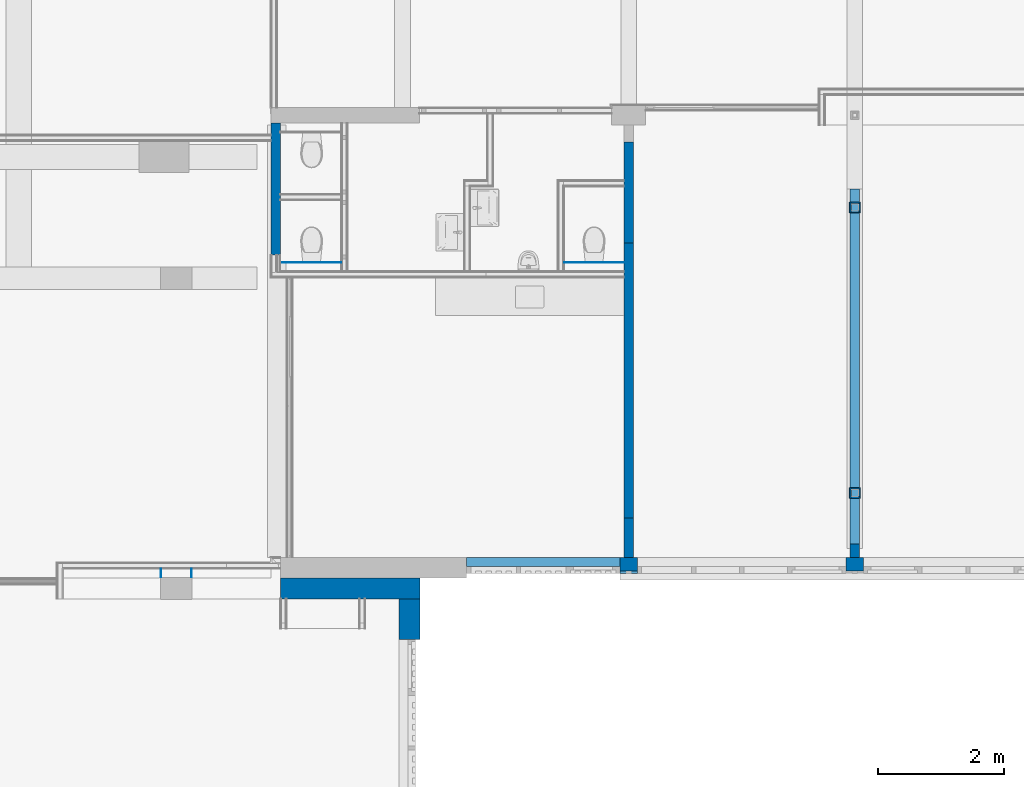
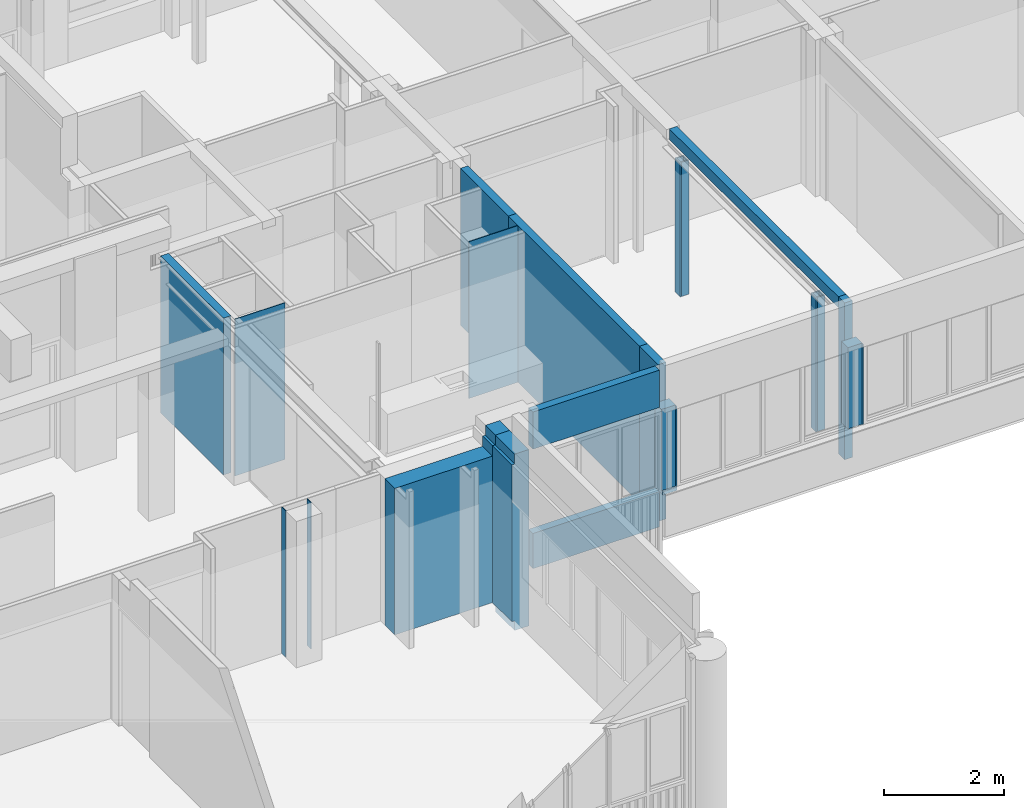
# One storey, part 57 of 117: 24 walls.
"""IFC2X3 building model written with IfcOpenShell, lengths in millimetres."""

from ifc_helpers import new_model, entity, si_unit, converted_unit, derived_unit, money_unit, direction, frame, origin_with_axes, place, context, subcontext, project, spatial, faceted_brep, material, type_object, element, save


model = new_model("IFC2X3")

# Units and contexts
model_context = context("Model", 3, precision=0.01, world=origin_with_axes(), true_north=direction((0.0, 1.0)))
body_context = subcontext(model_context, "Body", "Model", "MODEL_VIEW")
ifc_project = project(units=[si_unit("LENGTHUNIT", "METRE", prefix="MILLI"), si_unit("AREAUNIT", "SQUARE_METRE"), si_unit("VOLUMEUNIT", "CUBIC_METRE"), converted_unit("PLANEANGLEUNIT", "DEGREE", entity("IfcPlaneAngleMeasure", 0.0174532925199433), si_unit("PLANEANGLEUNIT", "RADIAN"), dimensions=[0, 0, 0, 0, 0, 0, 0]), money_unit("EUR"), converted_unit("TIMEUNIT", "Year", entity("IfcTimeMeasure", 31557600.0), si_unit("TIMEUNIT", "SECOND"), dimensions=[0, 0, 1, 0, 0, 0, 0]), si_unit("MASSUNIT", "GRAM", prefix="KILO"), si_unit("THERMODYNAMICTEMPERATUREUNIT", "DEGREE_CELSIUS"), si_unit("LUMINOUSINTENSITYUNIT", "LUMEN"), si_unit("ENERGYUNIT", "JOULE", prefix="MEGA"), derived_unit("THERMALCONDUCTANCEUNIT", [(si_unit("POWERUNIT", "WATT"), 1), (si_unit("LENGTHUNIT", "METRE"), -1), (si_unit("THERMODYNAMICTEMPERATUREUNIT", "KELVIN"), -1)]), derived_unit("SPECIFICHEATCAPACITYUNIT", [(si_unit("ENERGYUNIT", "JOULE"), 1), (si_unit("MASSUNIT", "GRAM", prefix="KILO"), -1), (si_unit("THERMODYNAMICTEMPERATUREUNIT", "KELVIN"), -1)]), derived_unit("MASSDENSITYUNIT", [(si_unit("MASSUNIT", "GRAM", prefix="KILO"), 1), (si_unit("VOLUMEUNIT", "CUBIC_METRE"), -1)])], contexts=[model_context])

# Site, building, storey
site_placement = place(None, origin_with_axes())
site = spatial("IfcSite", under=ifc_project, at=site_placement, Name="Site", CompositionType="ELEMENT")
building_placement = place(site_placement, origin_with_axes())
building = spatial("IfcBuilding", under=site, at=building_placement, Name="Naam gebouw", CompositionType="ELEMENT")
storey_placement = place(building_placement, frame((0.0, 0.0, 4150.0), z_axis=(0.0, 0.0, 1.0), x_axis=(1.0, 0.0, 0.0)))
storey = spatial("IfcBuildingStorey", under=building, at=storey_placement, Name="1e verdieping N", CompositionType="ELEMENT", Elevation=4150.0)

# Walls
ifc_material_1 = material(Name="ALG - CONSTRUCTIEF")
wall_type_1 = type_object("IfcWallType", Name="ALG - CONSTRUCTIEF 150", PredefinedType="NOTDEFINED")
wall_1_placement = place(storey_placement, frame((35999.99999999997, 10990.91242510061, -99.99999999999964), z_axis=(0.0, 0.0, 1.0), x_axis=(0.0, 1.0, 0.0)))
element("IfcWall", 1, at=wall_1_placement, inside=storey, type_object=wall_type_1, material=ifc_material_1, Name="_Wand-x", context=body_context, shape_type="Brep", body=[
    faceted_brep([(625.2598021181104, -75.00000000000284, 3300.0), (0.0, -75.00000000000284, 3300.0), (0.0, -75.00000000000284, 99.99999999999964), (625.2598021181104, -75.00000000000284, 99.99999999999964), (625.2598021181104, 75.00000000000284, 3300.0), (0.0, 75.00000000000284, 3300.0), (0.0, 75.00000000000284, 99.99999999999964), (625.2598021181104, 75.00000000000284, 99.99999999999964)], [[[0, 1, 2, 3]], [[4, 5, 1, 0]], [[1, 5, 6, 2]], [[2, 6, 7, 3]], [[4, 0, 3, 7]], [[5, 4, 7, 6]]]),
])
wall_2_placement = place(storey_placement, frame((35999.99999999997, 15996.63733182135, -99.99999999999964), z_axis=(0.0, 0.0, 1.0), x_axis=(0.0, 1.0, 0.0)))
element("IfcWall", 2, at=wall_2_placement, inside=storey, type_object=wall_type_1, material=ifc_material_1, Name="_Wand-x", context=body_context, shape_type="Brep", body=[
    faceted_brep([(0.0, -75.00000000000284, 3300.0), (0.0, -75.00000000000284, 99.99999999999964), (1609.275093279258, -75.00000000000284, 99.99999999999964), (1609.275093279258, -75.00000000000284, 3300.0), (0.0, 75.00000000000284, 3300.0), (0.0, 75.00000000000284, 99.99999999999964), (1609.275093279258, 75.00000000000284, 99.99999999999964), (1609.275093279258, 75.00000000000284, 3300.0)], [[[0, 1, 2, 3]], [[4, 5, 1, 0]], [[5, 6, 2, 1]], [[3, 2, 6, 7]], [[4, 0, 3, 7]], [[7, 6, 5, 4]]]),
])
wall_3_placement = place(storey_placement, frame((39599.99999999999, 10990.91242510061, -99.99999999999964), z_axis=(0.0, 0.0, 1.0), x_axis=(0.0, 1.0, 0.0)))
element("IfcWall", 3, at=wall_3_placement, inside=storey, type_object=wall_type_1, material=ifc_material_1, Name="_Wand-x", context=body_context, shape_type="Brep", body=[
    faceted_brep([(209.9999999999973, -75.00000000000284, 3300.0), (0.0, -75.00000000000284, 3300.0), (0.0, -75.00000000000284, 99.99999999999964), (209.9999999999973, -75.00000000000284, 99.99999999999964), (209.9999999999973, 75.00000000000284, 3300.0), (0.0, 75.00000000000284, 3300.0), (0.0, 75.00000000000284, 99.99999999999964), (209.9999999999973, 75.00000000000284, 99.99999999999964)], [[[0, 1, 2, 3]], [[4, 5, 1, 0]], [[1, 5, 6, 2]], [[2, 6, 7, 3]], [[4, 0, 3, 7]], [[5, 4, 7, 6]]]),
])
wall_4_placement = place(storey_placement, frame((30456.99999999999, 15800.91242510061, 0.0), z_axis=(0.0, 0.0, 1.0), x_axis=(0.0, 1.0, 0.0)))
element("IfcWall", 4, at=wall_4_placement, inside=storey, type_object=wall_type_1, material=ifc_material_1, Name="_Wand-x", context=body_context, shape_type="Brep", body=[
    faceted_brep([(2100.000000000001, 149.9999999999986, 0.0), (2100.000000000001, 0.0, 0.0), (0.0, 0.0, 0.0), (0.0, 149.9999999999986, 0.0), (2100.000000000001, 149.9999999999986, 3199.999999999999), (2100.000000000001, 0.0, 3199.999999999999), (0.0, 0.0, 3199.999999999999), (0.0, 149.9999999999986, 3199.999999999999)], [[[0, 1, 2, 3]], [[1, 0, 4, 5]], [[1, 5, 6, 2]], [[7, 3, 2, 6]], [[4, 0, 3, 7]], [[5, 4, 7, 6]]]),
])
wall_type_2 = type_object("IfcWallType", Name="ALG - CONSTRUCTIEF 330", PredefinedType="NOTDEFINED")
wall_5_placement = place(storey_placement, frame((32345.47026007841, 10660.91242510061, -199.9999999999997), z_axis=(0.0, 0.0, 1.0), x_axis=(0.0, -1.0, 0.0)))
element("IfcWall", 5, at=wall_5_placement, inside=storey, type_object=wall_type_2, material=ifc_material_1, Name="_Wand-x", context=body_context, shape_type="Brep", body=[
    faceted_brep([(329.9999999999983, 54.52973992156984, 0.0), (329.9999999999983, 54.52973992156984, 199.9999999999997), (329.9999999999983, 0.0, 199.9999999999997), (329.9999999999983, 0.0, 3400.0), (329.9999999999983, 54.52973992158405, 3400.0), (329.9999999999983, 54.52973992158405, 3600.0), (329.9999999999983, 329.9999999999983, 3600.0), (329.9999999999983, 329.9999999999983, 0.0), (974.9627352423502, 54.52973992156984, 199.9999999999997), (974.9627352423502, 54.52973992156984, 0.0), (974.9627352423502, 0.0, 199.9999999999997), (974.9627352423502, 0.0, 3400.0), (974.9627352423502, 54.52973992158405, 3400.0), (974.9627352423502, 54.52973992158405, 3600.0), (974.9627352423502, 329.9999999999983, 3600.0), (974.9627352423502, 329.9999999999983, 0.0)], [[[0, 1, 2, 3, 4, 5, 6, 7]], [[8, 1, 0, 9]], [[10, 2, 1, 8]], [[3, 2, 10, 11]], [[12, 4, 3, 11]], [[12, 13, 5, 4]], [[6, 5, 13, 14]], [[15, 7, 6, 14]], [[15, 9, 0, 7]], [[10, 8, 9, 15, 14, 13, 12, 11]]]),
])
wall_6_placement = place(storey_placement, frame((32675.4702600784, 10660.91242510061, -99.99999999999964), z_axis=(0.0, 0.0, 1.0), x_axis=(-1.0, 0.0, 0.0)))
element("IfcWall", 6, at=wall_6_placement, inside=storey, type_object=wall_type_2, material=ifc_material_1, Name="_Wand-x", context=body_context, shape_type="Brep", body=[
    faceted_brep([(2218.470260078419, 0.0, 99.99999999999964), (2218.470260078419, 0.0, 3090.000000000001), (329.9999999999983, 0.0, 3090.000000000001), (329.9999999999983, 0.0, 3300.000000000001), (275.4702600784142, 0.0, 3300.0), (275.4702600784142, 0.0, 3500.0), (0.0, 0.0, 3500.0), (0.0, 0.0, 0.0), (275.4702600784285, 0.0, 0.0), (275.4702600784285, 0.0, 99.99999999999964), (2218.470260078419, 329.9999999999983, 99.99999999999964), (2218.470260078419, 329.9999999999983, 3090.000000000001), (329.9999999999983, 329.9999999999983, 3090.000000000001), (329.9999999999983, 329.9999999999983, 3300.000000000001), (275.4702600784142, 329.9999999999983, 3300.0), (275.4702600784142, 329.9999999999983, 3500.0), (0.0, 329.9999999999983, 3500.0), (0.0, 329.9999999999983, 0.0), (275.4702600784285, 329.9999999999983, 0.0), (275.4702600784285, 329.9999999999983, 99.99999999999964)], [[[0, 1, 2, 3, 4, 5, 6, 7, 8, 9]], [[10, 11, 1, 0]], [[12, 2, 1, 11]], [[12, 13, 3, 2]], [[4, 3, 13, 14]], [[14, 15, 5, 4]], [[6, 5, 15, 16]], [[6, 16, 17, 7]], [[17, 18, 8, 7]], [[19, 9, 8, 18]], [[10, 0, 9, 19]], [[13, 12, 11, 10, 19, 18, 17, 16, 15, 14]]]),
])
wall_type_3 = type_object("IfcWallType", Name="ALG - CONSTRUCTIEF 146", PredefinedType="NOTDEFINED")
wall_7_placement = place(storey_placement, frame((35862.5, 10990.91242510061, 0.0), z_axis=(0.0, 0.0, 1.0), x_axis=(-1.0, 0.0, 0.0)))
element("IfcWall", 7, at=wall_7_placement, inside=storey, type_object=wall_type_3, material=ifc_material_1, Name="_Wand-x", context=body_context, shape_type="Brep", body=[
    faceted_brep([(0.0, 146.0000000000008, 0.0), (2439.999999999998, 145.999999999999, 0.0), (2439.999999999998, 0.0, 0.0), (0.0, 0.0, 0.0), (0.0, 146.0000000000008, 719.9999999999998), (2439.999999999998, 146.0000000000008, 719.9999999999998), (2439.999999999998, 0.0, 719.9999999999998), (0.0, 0.0, 719.9999999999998)], [[[0, 1, 2, 3]], [[4, 5, 1, 0]], [[2, 1, 5, 6]], [[3, 2, 6, 7]], [[4, 0, 3, 7]], [[7, 6, 5, 4]]]),
])
wall_8_placement = place(storey_placement, frame((35862.5, 10990.91242510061, 2440.0), z_axis=(0.0, 0.0, 1.0), x_axis=(-1.0, 0.0, 0.0)))
element("IfcWall", 8, at=wall_8_placement, inside=storey, type_object=wall_type_3, material=ifc_material_1, Name="_Wand-x", context=body_context, shape_type="Brep", body=[
    faceted_brep([(0.0, 146.0000000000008, 0.0), (2439.999999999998, 145.999999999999, 0.0), (2439.999999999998, 0.0, 0.0), (0.0, 0.0, 0.0), (0.0, 146.0000000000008, 760.0000000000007), (2439.999999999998, 146.0000000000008, 760.0000000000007), (2439.999999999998, 0.0, 760.0000000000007), (0.0, 0.0, 760.0000000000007)], [[[0, 1, 2, 3]], [[4, 5, 1, 0]], [[2, 1, 5, 6]], [[3, 2, 6, 7]], [[4, 0, 3, 7]], [[7, 6, 5, 4]]]),
])
ifc_material_2 = material(Name="Gipsplaat")
wall_type_4 = type_object("IfcWallType", Name="Metalstud 100 enkel 100", PredefinedType="NOTDEFINED")
wall_9_placement = place(storey_placement, frame((28550.0, 10673.41242510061, 0.0), z_axis=(0.0, 0.0, 1.0), x_axis=(0.0, 1.0, 0.0)))
element("IfcWall", 9, at=wall_9_placement, inside=storey, type_object=wall_type_4, material=ifc_material_2, Name="_Wand-x", context=body_context, shape_type="Brep", body=[
    faceted_brep([(132.5000000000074, -12.49999999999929, 0.0), (132.5000000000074, 0.0, 0.0), (132.5000000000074, 0.0, 2990.000000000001), (132.5000000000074, -12.49999999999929, 2990.000000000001), (0.0, -12.49999999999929, 0.0), (0.0, 0.0, 0.0), (0.0, 0.0, 2990.000000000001), (0.0, -12.49999999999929, 2990.000000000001)], [[[0, 1, 2, 3]], [[0, 4, 5, 1]], [[1, 5, 6, 2]], [[2, 6, 7, 3]], [[4, 0, 3, 7]], [[5, 4, 7, 6]]]),
])
wall_10_placement = place(storey_placement, frame((29050.0, 10673.41242510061, 0.0), z_axis=(0.0, 0.0, 1.0), x_axis=(0.0, 1.0, 0.0)))
element("IfcWall", 10, at=wall_10_placement, inside=storey, type_object=wall_type_4, material=ifc_material_2, Name="_Wand-x", context=body_context, shape_type="Brep", body=[
    faceted_brep([(132.5000000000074, 0.0, 0.0), (132.5000000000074, 12.49999999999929, 0.0), (132.5000000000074, 12.49999999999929, 2990.000000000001), (132.5000000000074, 0.0, 2990.000000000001), (0.0, 0.0, 0.0), (0.0, 12.49999999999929, 0.0), (0.0, 12.49999999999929, 2990.000000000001), (0.0, 0.0, 2990.000000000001)], [[[0, 1, 2, 3]], [[0, 4, 5, 1]], [[1, 5, 6, 2]], [[2, 6, 7, 3]], [[4, 0, 3, 7]], [[5, 4, 7, 6]]]),
])
wall_type_5 = type_object("IfcWallType", Name="Gipsplaat 25", PredefinedType="NOTDEFINED")
wall_11_placement = place(storey_placement, frame((39515.00000000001, 16475.91242510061, 0.0), z_axis=(0.0, 0.0, 1.0), x_axis=(0.0, 1.0, 0.0)))
element("IfcWall", 11, at=wall_11_placement, inside=storey, type_object=wall_type_5, material=ifc_material_2, Name="_Wand-x", context=body_context, shape_type="Brep", body=[
    faceted_brep([(169.999999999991, -24.99999999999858, 2740.0), (169.999999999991, 0.0, 2740.0), (0.0, 0.0, 2740.0), (0.0, -24.99999999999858, 2740.0), (169.999999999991, -24.99999999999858, 0.0), (169.999999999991, 0.0, 0.0), (0.0, 0.0, 0.0), (0.0, -24.99999999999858, 0.0)], [[[0, 1, 2, 3]], [[1, 0, 4, 5]], [[1, 5, 6, 2]], [[7, 3, 2, 6]], [[4, 0, 3, 7]], [[5, 4, 7, 6]]]),
])
wall_12_placement = place(storey_placement, frame((39685.0, 11930.9124251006, 0.0), z_axis=(0.0, 0.0, 1.0), x_axis=(0.0, 1.0, 0.0)))
element("IfcWall", 12, at=wall_12_placement, inside=storey, type_object=wall_type_5, material=ifc_material_2, Name="_Wand-x", context=body_context, shape_type="Brep", body=[
    faceted_brep([(145.0000000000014, 25.00000000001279, 0.0), (145.0000000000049, 0.0, 0.0), (25.00000000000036, 0.0, 0.0), (24.99999999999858, 25.00000000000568, 0.0), (145.0000000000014, 25.00000000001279, 2740.0), (145.0000000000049, 0.0, 2740.0), (25.00000000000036, 0.0, 2740.0), (24.99999999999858, 25.00000000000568, 2740.0)], [[[0, 1, 2, 3]], [[1, 0, 4, 5]], [[1, 5, 6, 2]], [[7, 3, 2, 6]], [[4, 0, 3, 7]], [[5, 4, 7, 6]]]),
])
wall_13_placement = place(storey_placement, frame((39515.00000000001, 11930.91242510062, 0.0), z_axis=(0.0, 0.0, 1.0), x_axis=(1.0, 0.0, 0.0)))
element("IfcWall", 13, at=wall_13_placement, inside=storey, type_object=wall_type_5, material=ifc_material_2, Name="_Wand-x", context=body_context, shape_type="Brep", body=[
    faceted_brep([(169.9999999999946, 25.00000000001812, 0.0), (169.9999999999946, 0.0, 0.0), (24.99999999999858, 0.0, 0.0), (24.99999999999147, 25.00000000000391, 0.0), (169.9999999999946, 25.00000000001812, 2740.0), (169.9999999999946, 0.0, 2740.0), (24.99999999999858, 0.0, 2740.0), (24.99999999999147, 25.00000000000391, 2740.0)], [[[0, 1, 2, 3]], [[1, 0, 4, 5]], [[1, 5, 6, 2]], [[7, 3, 2, 6]], [[4, 0, 3, 7]], [[5, 4, 7, 6]]]),
])
wall_14_placement = place(storey_placement, frame((39515.00000000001, 16475.91242510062, 0.0), z_axis=(0.0, 0.0, 1.0), x_axis=(1.0, 0.0, 0.0)))
element("IfcWall", 14, at=wall_14_placement, inside=storey, type_object=wall_type_5, material=ifc_material_2, Name="_Wand-x", context=body_context, shape_type="Brep", body=[
    faceted_brep([(169.9999999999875, 25.00000000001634, 0.0), (169.9999999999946, 0.0, 0.0), (24.99999999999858, 0.0, 0.0), (24.99999999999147, 25.00000000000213, 0.0), (169.9999999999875, 25.00000000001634, 2740.0), (169.9999999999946, 0.0, 2740.0), (24.99999999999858, 0.0, 2740.0), (24.99999999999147, 25.00000000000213, 2740.0)], [[[0, 1, 2, 3]], [[1, 0, 4, 5]], [[1, 5, 6, 2]], [[7, 3, 2, 6]], [[4, 0, 3, 7]], [[5, 4, 7, 6]]]),
])
wall_15_placement = place(storey_placement, frame((39685.0, 16475.9124251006, 0.0), z_axis=(0.0, 0.0, 1.0), x_axis=(0.0, 1.0, 0.0)))
element("IfcWall", 15, at=wall_15_placement, inside=storey, type_object=wall_type_5, material=ifc_material_2, Name="_Wand-x", context=body_context, shape_type="Brep", body=[
    faceted_brep([(145.0000000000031, 25.00000000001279, 0.0), (145.0000000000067, 0.0, 0.0), (24.99999999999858, 0.0, 0.0), (24.99999999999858, 24.99999999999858, 0.0), (145.0000000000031, 25.00000000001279, 2740.0), (145.0000000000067, 0.0, 2740.0), (24.99999999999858, 0.0, 2740.0), (24.99999999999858, 24.99999999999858, 2740.0)], [[[0, 1, 2, 3]], [[1, 0, 4, 5]], [[1, 5, 6, 2]], [[7, 3, 2, 6]], [[4, 0, 3, 7]], [[5, 4, 7, 6]]]),
])
wall_16_placement = place(storey_placement, frame((39515.00000000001, 16645.9124251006, 0.0), z_axis=(0.0, 0.0, 1.0), x_axis=(1.0, 0.0, 0.0)))
element("IfcWall", 16, at=wall_16_placement, inside=storey, type_object=wall_type_5, material=ifc_material_2, Name="_Wand-x", context=body_context, shape_type="Brep", body=[
    faceted_brep([(170.0000000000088, -24.99999999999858, 2740.0), (170.0000000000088, 0.0, 2740.0), (24.99999999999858, 0.0, 2740.0), (24.99999999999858, -24.99999999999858, 2740.0), (170.0000000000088, -24.99999999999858, 0.0), (170.0000000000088, 0.0, 0.0), (24.99999999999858, 0.0, 0.0), (24.99999999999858, -24.99999999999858, 0.0)], [[[0, 1, 2, 3]], [[1, 0, 4, 5]], [[1, 5, 6, 2]], [[7, 3, 2, 6]], [[4, 0, 3, 7]], [[5, 4, 7, 6]]]),
])
wall_17_placement = place(storey_placement, frame((39515.00000000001, 12100.9124251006, 0.0), z_axis=(0.0, 0.0, 1.0), x_axis=(1.0, 0.0, 0.0)))
element("IfcWall", 17, at=wall_17_placement, inside=storey, type_object=wall_type_5, material=ifc_material_2, Name="_Wand-x", context=body_context, shape_type="Brep", body=[
    faceted_brep([(170.0000000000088, -25.00000000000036, 2740.0), (170.0000000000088, 0.0, 2740.0), (24.99999999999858, 0.0, 2740.0), (24.99999999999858, -25.00000000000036, 2740.0), (170.0000000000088, -25.00000000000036, 0.0), (170.0000000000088, 0.0, 0.0), (24.99999999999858, 0.0, 0.0), (24.99999999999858, -25.00000000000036, 0.0)], [[[0, 1, 2, 3]], [[1, 0, 4, 5]], [[1, 5, 6, 2]], [[7, 3, 2, 6]], [[4, 0, 3, 7]], [[5, 4, 7, 6]]]),
])
wall_18_placement = place(storey_placement, frame((39515.00000000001, 11930.91242510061, 0.0), z_axis=(0.0, 0.0, 1.0), x_axis=(0.0, 1.0, 0.0)))
element("IfcWall", 18, at=wall_18_placement, inside=storey, type_object=wall_type_5, material=ifc_material_2, Name="_Wand-x", context=body_context, shape_type="Brep", body=[
    faceted_brep([(169.999999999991, -24.99999999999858, 2740.0), (169.999999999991, 0.0, 2740.0), (0.0, 0.0, 2740.0), (0.0, -24.99999999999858, 2740.0), (169.999999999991, -24.99999999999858, 0.0), (169.999999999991, 0.0, 0.0), (0.0, 0.0, 0.0), (0.0, -24.99999999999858, 0.0)], [[[0, 1, 2, 3]], [[1, 0, 4, 5]], [[1, 5, 6, 2]], [[7, 3, 2, 6]], [[4, 0, 3, 7]], [[5, 4, 7, 6]]]),
])
ifc_material_3 = material(Name="ALG - GEVEL")
wall_type_6 = type_object("IfcWallType", Name="ALG - GEVEL 260", PredefinedType="NOTDEFINED")
wall_19_placement = place(storey_placement, frame((39737.68197425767, 10730.91242510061, 783.0000000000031), z_axis=(0.0, 0.0, 1.0), x_axis=(-1.0, 0.0, 0.0)))
element("IfcWall", 19, at=wall_19_placement, inside=storey, type_object=wall_type_6, material=ifc_material_3, Name="_Wand-x", context=body_context, shape_type="Brep", body=[
    faceted_brep([(275.0000000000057, -44.00000000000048, 1656.999999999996), (0.1819742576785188, -44.00000000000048, 1656.999999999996), (0.1819742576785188, 0.0, 1656.999999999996), (0.0, 0.0, 1656.999999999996), (0.0, -259.9999999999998, 1656.999999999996), (275.0000000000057, -259.9999999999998, 1656.999999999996), (275.0000000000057, -44.00000000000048, 0.0), (0.1819742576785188, -44.00000000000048, 0.0), (0.1819742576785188, 0.0, 17.63269807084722), (0.1819742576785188, 0.0, 0.0), (0.1819742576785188, 0.0, 15.60184484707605), (0.1819742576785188, -6.999999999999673, 16.83613371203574), (0.1819742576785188, -6.999999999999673, 28.51433297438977), (0.1819742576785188, -4.999999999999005, 28.51433297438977), (0.1819742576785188, -4.999999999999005, 18.51433297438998), (0.0, 0.0, 17.63269807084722), (0.0, -4.999999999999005, 18.51433297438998), (0.0, -4.999999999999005, 28.51433297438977), (0.0, -6.999999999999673, 28.51433297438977), (0.0, -6.999999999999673, 16.83613371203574), (0.0, 0.0, 15.60184484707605), (0.0, 0.0, 0.0), (0.0, -259.9999999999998, 0.0), (275.0000000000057, -259.9999999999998, 0.0)], [[[0, 1, 2, 3, 4, 5]], [[0, 6, 7, 1]], [[8, 2, 1, 7, 9, 10, 11, 12, 13, 14]], [[3, 2, 8, 15]], [[3, 15, 16, 17, 18, 19, 20, 21, 22, 4]], [[5, 4, 22, 23]], [[23, 6, 0, 5]], [[7, 6, 23, 22, 21, 9]], [[20, 10, 9, 21]], [[19, 11, 10, 20]], [[18, 12, 11, 19]], [[17, 13, 12, 18]], [[16, 14, 13, 17]], [[15, 8, 14, 16]]]),
])
wall_20_placement = place(storey_placement, frame((36137.68197425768, 10730.91242510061, 719.9999999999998), z_axis=(0.0, 0.0, 1.0), x_axis=(-1.0, 0.0, 0.0)))
element("IfcWall", 20, at=wall_20_placement, inside=storey, type_object=wall_type_6, material=ifc_material_3, Name="_Wand-x", context=body_context, shape_type="Brep", body=[
    faceted_brep([(275.0000000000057, -44.00000000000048, 1720.0), (0.1819742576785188, -44.00000000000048, 1720.0), (0.1819742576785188, 0.0, 1720.0), (0.0, 0.0, 1720.0), (0.0, -259.9999999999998, 1720.0), (275.0000000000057, -259.9999999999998, 1720.0), (275.0000000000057, -44.00000000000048, 62.99999999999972), (0.1819742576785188, -44.00000000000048, 62.99999999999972), (0.1819742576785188, 0.0, 80.63269807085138), (0.1819742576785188, 0.0, 62.99999999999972), (0.1819742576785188, 0.0, 78.60184484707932), (0.1819742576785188, -6.999999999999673, 79.83613371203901), (0.1819742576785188, -6.999999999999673, 91.51433297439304), (0.1819742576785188, -4.999999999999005, 91.51433297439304), (0.1819742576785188, -4.999999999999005, 81.51433297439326), (0.0, 0.0, 80.63269807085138), (0.0, -4.999999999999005, 81.51433297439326), (0.0, -4.999999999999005, 91.51433297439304), (0.0, -6.999999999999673, 91.51433297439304), (0.0, -6.999999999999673, 79.83613371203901), (0.0, 0.0, 78.60184484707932), (0.0, 0.0, 0.0), (0.0, -259.9999999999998, 0.0), (275.0000000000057, -259.9999999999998, 0.0), (275.0000000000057, 0.0, 62.99999999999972), (275.0000000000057, 0.0, 0.0)], [[[0, 1, 2, 3, 4, 5]], [[0, 6, 7, 1]], [[8, 2, 1, 7, 9, 10, 11, 12, 13, 14]], [[3, 2, 8, 15]], [[3, 15, 16, 17, 18, 19, 20, 21, 22, 4]], [[5, 4, 22, 23]], [[24, 6, 0, 5, 23, 25]], [[6, 24, 9, 7]], [[9, 24, 25, 21, 20, 10]], [[19, 11, 10, 20]], [[18, 12, 11, 19]], [[17, 13, 12, 18]], [[16, 14, 13, 17]], [[15, 8, 14, 16]], [[23, 22, 21, 25]]]),
])
wall_type_7 = type_object("IfcWallType", Name="Metalstud 150 enkel 150", PredefinedType="NOTDEFINED")
wall_21_placement = place(storey_placement, frame((31429.1870993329, 15690.91242510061, 0.0), z_axis=(0.0, 0.0, 1.0), x_axis=(-1.0, 0.0, 0.0)))
element("IfcWall", 21, at=wall_21_placement, inside=storey, type_object=wall_type_7, material=ifc_material_2, Name="_Wand-x", context=body_context, shape_type="Brep", body=[
    faceted_brep([(972.1870993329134, 0.0, 0.0), (972.1870993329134, 0.0, 3200.0), (0.0, 0.0, 3200.0), (0.0, 0.0, 0.0), (972.1870993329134, 12.49999999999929, 0.0), (972.1870993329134, 12.49999999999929, 3200.0), (0.0, 12.50000000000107, 3200.0), (0.0, 12.49999999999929, 0.0)], [[[0, 1, 2, 3]], [[4, 5, 1, 0]], [[5, 6, 2, 1]], [[3, 2, 6, 7]], [[3, 7, 4, 0]], [[7, 6, 5, 4]]]),
])
wall_22_placement = place(storey_placement, frame((35925.00000000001, 15690.91242510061, 0.0), z_axis=(0.0, 0.0, 1.0), x_axis=(-1.0, 0.0, 0.0)))
element("IfcWall", 22, at=wall_22_placement, inside=storey, type_object=wall_type_7, material=ifc_material_2, Name="_Wand-x", context=body_context, shape_type="Brep", body=[
    faceted_brep([(949.9999999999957, 0.0, 0.0), (949.9999999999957, 0.0, 3200.0), (0.0, 0.0, 3200.0), (0.0, 0.0, 0.0), (949.9999999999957, 12.49999999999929, 0.0), (949.9999999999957, 12.49999999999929, 3200.0), (0.0, 12.50000000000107, 3200.0), (0.0, 12.49999999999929, 0.0)], [[[0, 1, 2, 3]], [[4, 5, 1, 0]], [[5, 6, 2, 1]], [[3, 2, 6, 7]], [[3, 7, 4, 0]], [[7, 6, 5, 4]]]),
])
ifc_material_4 = material(Name="Steen - Betonblok C")
wall_type_8 = type_object("IfcWallType", Name="Steen - Betonblok C 150", PredefinedType="NOTDEFINED")
wall_23_placement = place(storey_placement, frame((39599.99999999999, 16855.91242510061, 2980.0), z_axis=(0.0, 0.0, 1.0), x_axis=(0.0, -1.0, 0.0)))
element("IfcWall", 23, at=wall_23_placement, inside=storey, type_object=wall_type_8, material=ifc_material_4, Name="_Wand-x", context=body_context, shape_type="Brep", body=[
    faceted_brep([(0.0, -75.00000000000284, 219.9999999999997), (5725.000000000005, -75.00000000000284, 219.9999999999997), (5725.000000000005, 75.00000000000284, 219.9999999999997), (0.0, 75.00000000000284, 219.9999999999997), (0.0, -75.00000000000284, 0.0), (5725.000000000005, -75.00000000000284, 0.0), (5725.000000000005, 75.00000000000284, 0.0), (0.0, 75.00000000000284, 0.0)], [[[0, 1, 2, 3]], [[4, 5, 1, 0]], [[2, 1, 5, 6]], [[3, 2, 6, 7]], [[4, 0, 3, 7]], [[7, 6, 5, 4]]]),
])
wall_24_placement = place(storey_placement, frame((36000.0, 15996.63733182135, 0.0), z_axis=(0.0, 0.0, 1.0), x_axis=(0.0, -1.0, 0.0)))
element("IfcWall", 24, at=wall_24_placement, inside=storey, type_object=wall_type_8, material=ifc_material_4, Name="_Wand-x", context=body_context, shape_type="Brep", body=[
    faceted_brep([(0.0, -75.00000000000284, 3200.0), (4380.465104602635, -75.00000000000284, 3200.0), (4380.465104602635, 75.00000000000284, 3200.0), (0.0, 75.00000000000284, 3200.0), (0.0, -75.00000000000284, 0.0), (4380.465104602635, -75.00000000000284, 0.0), (4380.465104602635, 75.00000000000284, 0.0), (0.0, 75.00000000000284, 0.0)], [[[0, 1, 2, 3]], [[4, 5, 1, 0]], [[2, 1, 5, 6]], [[3, 2, 6, 7]], [[4, 0, 3, 7]], [[7, 6, 5, 4]]]),
])

save(model, "model.ifc")
